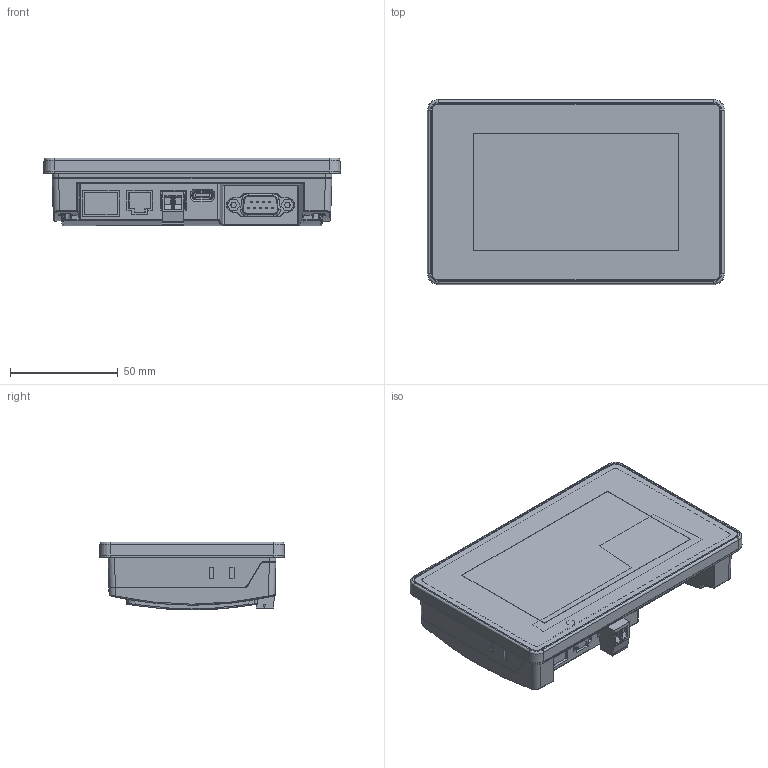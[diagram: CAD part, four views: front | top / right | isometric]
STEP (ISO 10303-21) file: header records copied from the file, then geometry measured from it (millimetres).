
FILE_DESCRIPTION((''),'2;1');
FILE_NAME('ADMI12F45D1EI4AT_2_5','2023-09-25T11:31:11',('weixf_pc'),(''),'CREO PARAMETRIC BY PTC INC, 2016510','CREO PARAMETRIC BY PTC INC, 2016510','');
FILE_SCHEMA(('CONFIG_CONTROL_DESIGN'));
Length unit declared in the file: millimetre
Products named in the file (1): ADMI12F45D1EI4AT_2_5
Bounding box: 138 x 86 x 31.5 mm (x, y, z)
Volume: 245434.7 mm3; surface area: 66266.1 mm2
Topology: 1 solids, 3 shells, 911 faces, 2484 edges, 1591 vertices
Faces by surface type: plane 532, cylinder 174, cone 79, bspline 78, torus 24, extrusion 12, sphere 12
Entity records: 31874 total; most frequent: CARTESIAN_POINT 9546, ORIENTED_EDGE 4946, DIRECTION 4170, EDGE_CURVE 2473, VECTOR 1628, LINE 1616, VERTEX_POINT 1591, AXIS2_PLACEMENT_3D 1271
